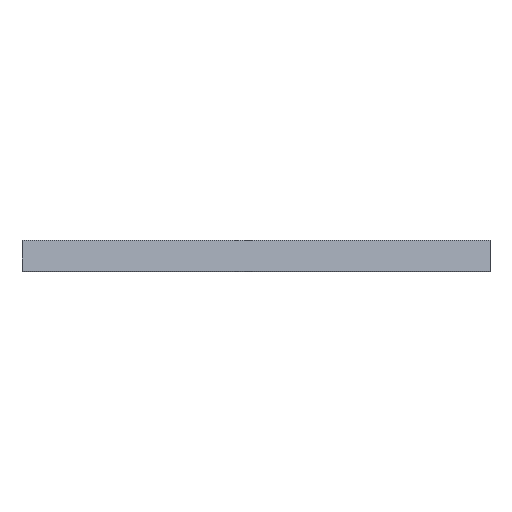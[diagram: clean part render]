
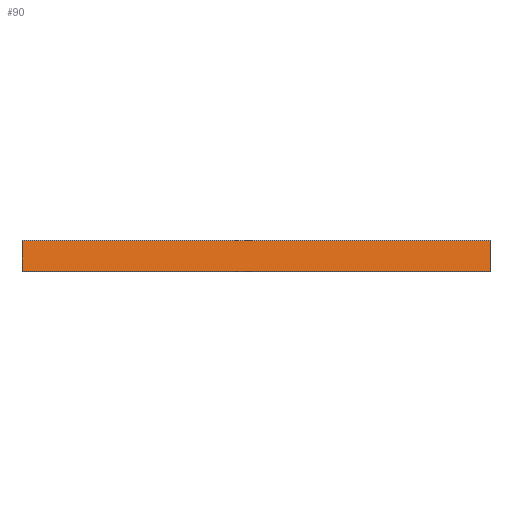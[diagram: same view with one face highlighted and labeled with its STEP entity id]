
A CAD part, front view. The second image highlights one B-rep face of the part: STEP entity #90.
In plain terms, the highlighted planar face has unit normal (0, -0.99, 0.139).
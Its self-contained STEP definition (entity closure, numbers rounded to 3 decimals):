
#51=CARTESIAN_POINT('Axis2P3D Location',(0.,-25.,11.5)) ;
#56=CARTESIAN_POINT('Line Origine',(150.,-26.401,1.528)) ;
#60=CARTESIAN_POINT('Vertex',(150.,-25.024,11.328)) ;
#62=CARTESIAN_POINT('Vertex',(150.,-27.779,-8.272)) ;
#65=CARTESIAN_POINT('Line Origine',(0.,-25.024,11.328)) ;
#69=CARTESIAN_POINT('Vertex',(-150.,-25.024,11.328)) ;
#72=CARTESIAN_POINT('Line Origine',(-150.,-26.401,1.528)) ;
#76=CARTESIAN_POINT('Vertex',(-150.,-27.779,-8.272)) ;
#79=CARTESIAN_POINT('Line Origine',(0.,-27.779,-8.272)) ;
#52=DIRECTION('Axis2P3D Direction',(0.,-0.99,0.139)) ;
#53=DIRECTION('Axis2P3D XDirection',(0.,-0.139,-0.99)) ;
#57=DIRECTION('Vector Direction',(0.,-0.139,-0.99)) ;
#66=DIRECTION('Vector Direction',(1.,0.,0.)) ;
#73=DIRECTION('Vector Direction',(0.,-0.139,-0.99)) ;
#80=DIRECTION('Vector Direction',(1.,0.,0.)) ;
#54=AXIS2_PLACEMENT_3D('Plane Axis2P3D',#51,#52,#53) ;
#85=ORIENTED_EDGE('',*,*,#64,.F.) ;
#86=ORIENTED_EDGE('',*,*,#71,.F.) ;
#87=ORIENTED_EDGE('',*,*,#78,.T.) ;
#88=ORIENTED_EDGE('',*,*,#83,.T.) ;
#58=VECTOR('Line Direction',#57,1.) ;
#67=VECTOR('Line Direction',#66,1.) ;
#74=VECTOR('Line Direction',#73,1.) ;
#81=VECTOR('Line Direction',#80,1.) ;
#90=ADVANCED_FACE('PartBody',(#89),#55,.T.) ;
#64=EDGE_CURVE('',#61,#63,#59,.T.) ;
#71=EDGE_CURVE('',#70,#61,#68,.T.) ;
#78=EDGE_CURVE('',#70,#77,#75,.T.) ;
#83=EDGE_CURVE('',#77,#63,#82,.T.) ;
#84=EDGE_LOOP('',(#85,#86,#87,#88)) ;
#89=FACE_OUTER_BOUND('',#84,.T.) ;
#59=LINE('Line',#56,#58) ;
#68=LINE('Line',#65,#67) ;
#75=LINE('Line',#72,#74) ;
#82=LINE('Line',#79,#81) ;
#55=PLANE('',#54) ;
#61=VERTEX_POINT('',#60) ;
#63=VERTEX_POINT('',#62) ;
#70=VERTEX_POINT('',#69) ;
#77=VERTEX_POINT('',#76) ;
